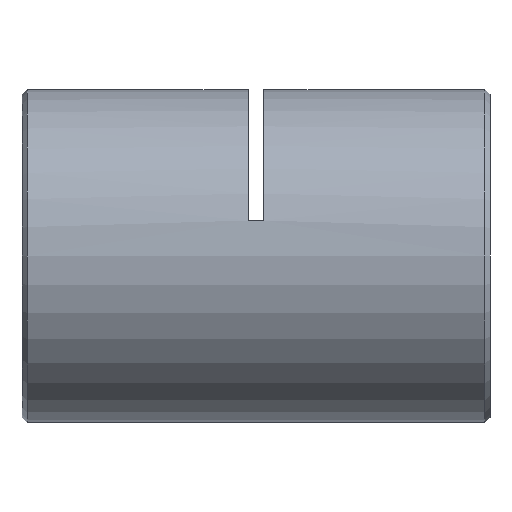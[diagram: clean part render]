
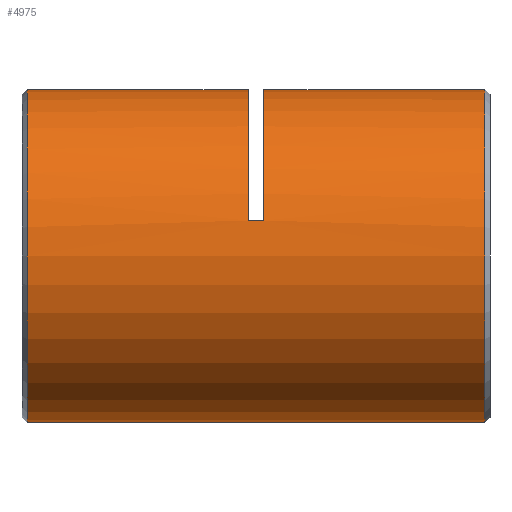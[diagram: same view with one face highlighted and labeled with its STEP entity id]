
A CAD part, left-side view. The second image highlights one B-rep face of the part: STEP entity #4975.
In plain terms, the highlighted cylindrical face has radius 16 mm (diameter 32 mm), a partial arc.
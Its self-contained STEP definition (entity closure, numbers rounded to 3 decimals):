
#52 = DIRECTION ( 'NONE',  ( 0., 0., 1. ) ) ;
#305 = VECTOR ( 'NONE', #5509, 1000. ) ;
#326 = DIRECTION ( 'NONE',  ( 0., 1., 0. ) ) ;
#428 = LINE ( 'NONE', #2298, #2009 ) ;
#686 = CARTESIAN_POINT ( 'NONE',  ( 0., 22., 16. ) ) ;
#714 = CARTESIAN_POINT ( 'NONE',  ( 0., 0.75, -16. ) ) ;
#987 = ORIENTED_EDGE ( 'NONE', *, *, #5513, .T. ) ;
#1140 = LINE ( 'NONE', #3049, #305 ) ;
#1189 = CIRCLE ( 'NONE', #3192, 16. ) ;
#1277 = CARTESIAN_POINT ( 'NONE',  ( 0., 0.75, 16. ) ) ;
#1374 = CARTESIAN_POINT ( 'NONE',  ( -15.632, 23.5, 3.413 ) ) ;
#1449 = ORIENTED_EDGE ( 'NONE', *, *, #5466, .T. ) ;
#1529 = VERTEX_POINT ( 'NONE', #3147 ) ;
#1698 = EDGE_LOOP ( 'NONE', ( #3790, #2991, #5246, #1876, #987, #1449, #3428, #4602 ) ) ;
#1876 = ORIENTED_EDGE ( 'NONE', *, *, #3439, .F. ) ;
#1901 = CARTESIAN_POINT ( 'NONE',  ( 0., 23.5, 16. ) ) ;
#1910 = CARTESIAN_POINT ( 'NONE',  ( 0., 44.75, 0. ) ) ;
#2009 = VECTOR ( 'NONE', #5672, 1000. ) ;
#2135 = DIRECTION ( 'NONE',  ( 0., 0., 1. ) ) ;
#2194 = CIRCLE ( 'NONE', #5321, 16. ) ;
#2239 = VERTEX_POINT ( 'NONE', #1374 ) ;
#2298 = CARTESIAN_POINT ( 'NONE',  ( 0., 0., 16. ) ) ;
#2413 = LINE ( 'NONE', #3879, #4649 ) ;
#2602 = EDGE_CURVE ( 'NONE', #5125, #4534, #3263, .T. ) ;
#2746 = DIRECTION ( 'NONE',  ( 0., 0., -1. ) ) ;
#2819 = DIRECTION ( 'NONE',  ( 0., -1., 0. ) ) ;
#2991 = ORIENTED_EDGE ( 'NONE', *, *, #3041, .T. ) ;
#3001 = VERTEX_POINT ( 'NONE', #3678 ) ;
#3041 = EDGE_CURVE ( 'NONE', #5125, #5222, #1189, .T. ) ;
#3049 = CARTESIAN_POINT ( 'NONE',  ( -15.632, 22.75, 3.413 ) ) ;
#3116 = CARTESIAN_POINT ( 'NONE',  ( 0., 23.5, 0. ) ) ;
#3147 = CARTESIAN_POINT ( 'NONE',  ( 0., 44.75, 16. ) ) ;
#3192 = AXIS2_PLACEMENT_3D ( 'NONE', #3425, #3481, #52 ) ;
#3233 = DIRECTION ( 'NONE',  ( 0., 1., 0. ) ) ;
#3253 = CARTESIAN_POINT ( 'NONE',  ( 0., 0., 0. ) ) ;
#3263 = LINE ( 'NONE', #6033, #3586 ) ;
#3425 = CARTESIAN_POINT ( 'NONE',  ( 0., 0.75, 0. ) ) ;
#3428 = ORIENTED_EDGE ( 'NONE', *, *, #3841, .T. ) ;
#3439 = EDGE_CURVE ( 'NONE', #3001, #3989, #5752, .T. ) ;
#3481 = DIRECTION ( 'NONE',  ( 0., 1., 0. ) ) ;
#3502 = CIRCLE ( 'NONE', #4426, 16. ) ;
#3586 = VECTOR ( 'NONE', #3233, 1000. ) ;
#3611 = DIRECTION ( 'NONE',  ( 0., 1., 0. ) ) ;
#3678 = CARTESIAN_POINT ( 'NONE',  ( -15.632, 22., 3.413 ) ) ;
#3790 = ORIENTED_EDGE ( 'NONE', *, *, #2602, .F. ) ;
#3841 = EDGE_CURVE ( 'NONE', #4953, #1529, #2413, .T. ) ;
#3879 = CARTESIAN_POINT ( 'NONE',  ( 0., 0., 16. ) ) ;
#3952 = CARTESIAN_POINT ( 'NONE',  ( 0., 44.75, -16. ) ) ;
#3989 = VERTEX_POINT ( 'NONE', #686 ) ;
#4109 = AXIS2_PLACEMENT_3D ( 'NONE', #3253, #4228, #6210 ) ;
#4228 = DIRECTION ( 'NONE',  ( 0., 1., 0. ) ) ;
#4258 = FACE_OUTER_BOUND ( 'NONE', #1698, .T. ) ;
#4275 = CARTESIAN_POINT ( 'NONE',  ( 0., 22., 0. ) ) ;
#4334 = AXIS2_PLACEMENT_3D ( 'NONE', #4275, #326, #4725 ) ;
#4426 = AXIS2_PLACEMENT_3D ( 'NONE', #3116, #3611, #2135 ) ;
#4534 = VERTEX_POINT ( 'NONE', #3952 ) ;
#4543 = EDGE_CURVE ( 'NONE', #1529, #4534, #2194, .T. ) ;
#4602 = ORIENTED_EDGE ( 'NONE', *, *, #4543, .T. ) ;
#4649 = VECTOR ( 'NONE', #5723, 1000. ) ;
#4725 = DIRECTION ( 'NONE',  ( 0., 0., 1. ) ) ;
#4953 = VERTEX_POINT ( 'NONE', #1901 ) ;
#4975 = ADVANCED_FACE ( 'NONE', ( #4258 ), #5676, .T. ) ;
#5125 = VERTEX_POINT ( 'NONE', #714 ) ;
#5209 = EDGE_CURVE ( 'NONE', #5222, #3989, #428, .T. ) ;
#5222 = VERTEX_POINT ( 'NONE', #1277 ) ;
#5246 = ORIENTED_EDGE ( 'NONE', *, *, #5209, .T. ) ;
#5321 = AXIS2_PLACEMENT_3D ( 'NONE', #1910, #2819, #2746 ) ;
#5466 = EDGE_CURVE ( 'NONE', #2239, #4953, #3502, .T. ) ;
#5509 = DIRECTION ( 'NONE',  ( 0., 1., 0. ) ) ;
#5513 = EDGE_CURVE ( 'NONE', #3001, #2239, #1140, .T. ) ;
#5672 = DIRECTION ( 'NONE',  ( 0., 1., 0. ) ) ;
#5676 = CYLINDRICAL_SURFACE ( 'NONE', #4109, 16. ) ;
#5723 = DIRECTION ( 'NONE',  ( 0., 1., 0. ) ) ;
#5752 = CIRCLE ( 'NONE', #4334, 16. ) ;
#6033 = CARTESIAN_POINT ( 'NONE',  ( 0., 0., -16. ) ) ;
#6210 = DIRECTION ( 'NONE',  ( 0., 0., 1. ) ) ;
